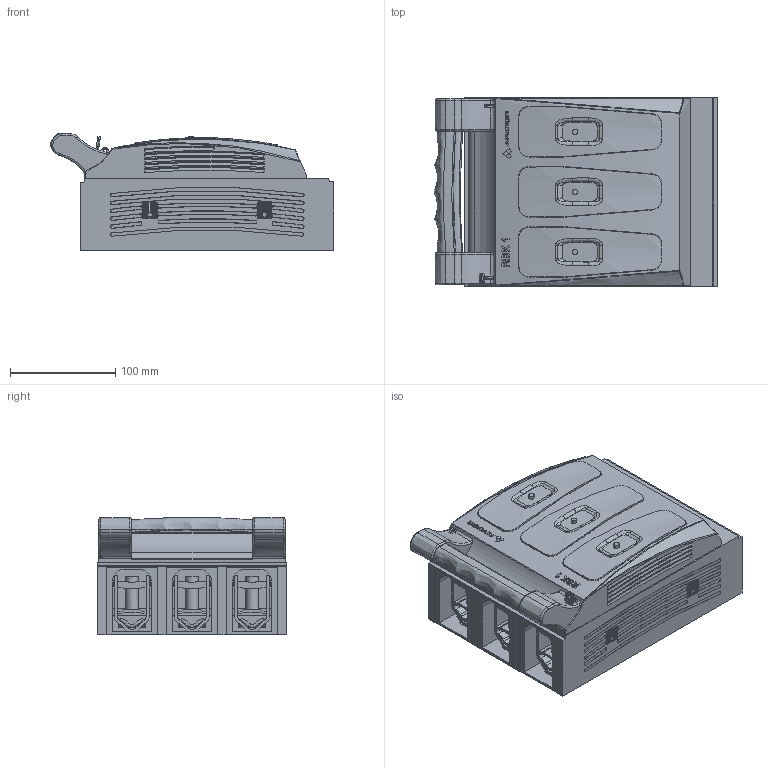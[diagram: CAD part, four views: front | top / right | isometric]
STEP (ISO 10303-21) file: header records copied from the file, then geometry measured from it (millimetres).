
FILE_DESCRIPTION(/* description */ (''),/* implementation_level */ '2;1');
FILE_NAME(/* name */ 'RBK 1-V - 63-811779-031.stp',/* time_stamp */ '2019-03-08T14:58:01+01:00',/* author */ (''),/* organization */ (''),/* preprocessor_version */ 'ST-DEVELOPER v16',/* originating_system */ 'SIEMENS PLM Software NX 10.0',/* authorisation */ '');
FILE_SCHEMA (('AUTOMOTIVE_DESIGN { 1 0 10303 214 3 1 1 1 }'));
Products named in the file (1): 710_23CC0B2D1juc
Bounding box: 268.9 x 180 x 111 mm (x, y, z)
Surface area: 324344.9 mm2
Topology: 6 solids, 7 shells, 2686 faces, 7210 edges, 4599 vertices
Faces by surface type: plane 1700, bspline 365, cylinder 346, cone 130, torus 75, extrusion 28, sphere 24, revolution 18
Entity records: 105683 total; most frequent: CARTESIAN_POINT 36614, ORIENTED_EDGE 14232, DIRECTION 12927, EDGE_CURVE 7116, AXIS2_PLACEMENT_3D 4586, VERTEX_POINT 4584, VECTOR 3733, LINE 3705
